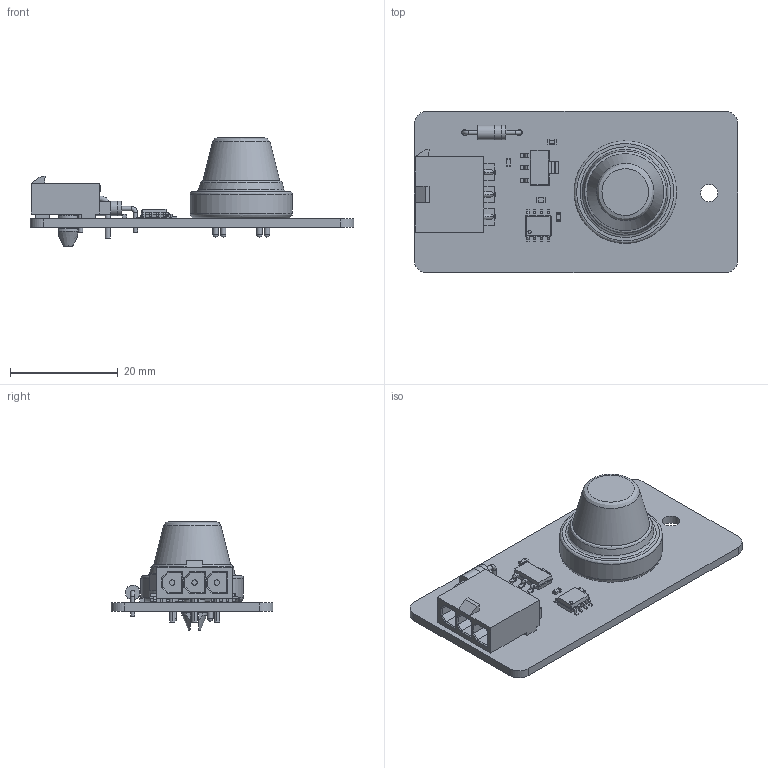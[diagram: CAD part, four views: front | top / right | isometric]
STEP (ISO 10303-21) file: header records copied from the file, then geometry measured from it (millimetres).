
FILE_DESCRIPTION(('KiCad electronic assembly'),'2;1');
FILE_NAME('H2_MoSen_R1.0.step','2025-01-28T23:39:51',('Pcbnew'),('Kicad' ),'Open CASCADE STEP processor 7.8','KiCad to STEP converter', 'Unknown');
FILE_SCHEMA(('AUTOMOTIVE_DESIGN { 1 0 10303 214 1 1 1 1 }'));
Length unit declared in the file: millimetre
Products named in the file (16): H2_MoSen_R1.0 1; D_DO-41_SOD81_P10.16mm_Horizontal; C_0603_1608Metric; R_0603_1608Metric; SOT-223; SOT_223; TE_1-770967-0-d-3d; C-1-770967-0; SOIC-8_3.9x4.9mm_P1.27mm; SOIC_8_39x49mm_P127mm; MQ-8 gas sensor; Document; modular sensor_PCB
Assembly tree (17 placements, depth 3):
  H2_MoSen_R1.0 1
    D_DO-41_SOD81_P10.16mm_Horizontal
      D_DO-41_SOD81_P10.16mm_Horizontal
    C_0603_1608Metric  x2
      C_0603_1608Metric
    R_0603_1608Metric  x2
      R_0603_1608Metric
    SOT-223
      SOT_223
    TE_1-770967-0-d-3d
      C-1-770967-0
    SOIC-8_3.9x4.9mm_P1.27mm
      SOIC_8_39x49mm_P127mm
    MQ-8 gas sensor
      Document
    modular sensor_PCB
Bounding box: 60 x 30 x 20.16 mm (x, y, z)
Volume: 4683.8 mm3; surface area: 7183.7 mm2
Topology: 10 solids, 30 shells, 564 faces, 1408 edges, 896 vertices
Faces by surface type: plane 317, cylinder 166, bspline 67, torus 12, cone 2
Full cylindrical faces by diameter (mm): 0.6 x1, 0.8 x4, 1 x12, 1.1 x2, 1.25 x6, 1.4 x3, 2.7 x2, 2.72 x1, 3.2 x1, 3.86 x1, 14.219 x1, 17 x1, 19 x1
Entity records: 18209 total; most frequent: CARTESIAN_POINT 4110, ORIENTED_EDGE 2492, DIRECTION 2248, EDGE_CURVE 1256, LINE 846, VECTOR 846, VERTEX_POINT 804, AXIS2_PLACEMENT_3D 701
